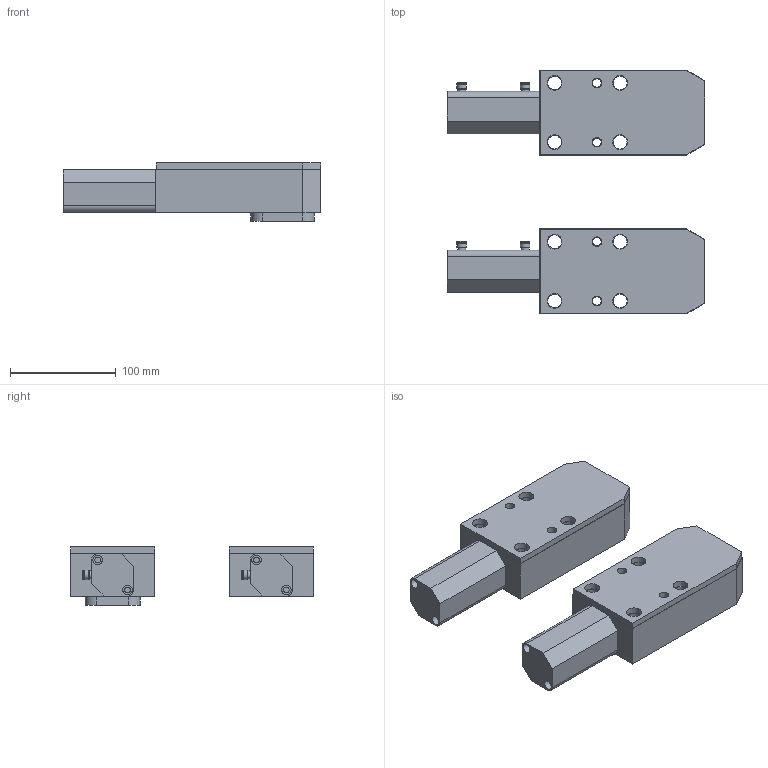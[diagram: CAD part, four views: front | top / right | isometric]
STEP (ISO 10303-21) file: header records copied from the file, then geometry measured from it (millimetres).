
FILE_DESCRIPTION(('STEP AP214'),'1');
FILE_NAME('1003.0040.stp','2020-05-22T14:12:45',(' '),(' '),'Spatial InterOp 3D',' ',' ');
FILE_SCHEMA(('AUTOMOTIVE_DESIGN { 1 0 10303 214 1 1 1 1 }'));
Length unit declared in the file: millimetre
Products named in the file (7): (PMS) 1003.0040; 6; 4; Assemblato; (PMI) 1003.0040; 2; 1
Assembly tree (6 placements, depth 3):
  Assemblato
    (PMS) 1003.0040
      6
      4
    (PMI) 1003.0040
      2
      1
Bounding box: 243.5 x 230 x 55 mm (x, y, z)
Volume: 1218892.9 mm3; surface area: 204143.3 mm2
Topology: 4 solids, 4 shells, 820 faces, 2170 edges, 1450 vertices
Faces by surface type: extrusion 398, plane 286, cylinder 118, torus 12, cone 4, sphere 2
Full cylindrical faces by diameter (mm): 5.5 x4, 7.5 x8, 8 x4, 8.5 x4, 9 x16, 13 x8, 14 x8, 19.9 x8, 40 x2
Entity records: 32046 total; most frequent: CARTESIAN_POINT 6763, ORIENTED_EDGE 4112, DIRECTION 2770, EDGE_CURVE 2056, VERTEX_POINT 1418, VECTOR 1404, B_SPLINE_CURVE_WITH_KNOTS 1196, EDGE_LOOP 1018
